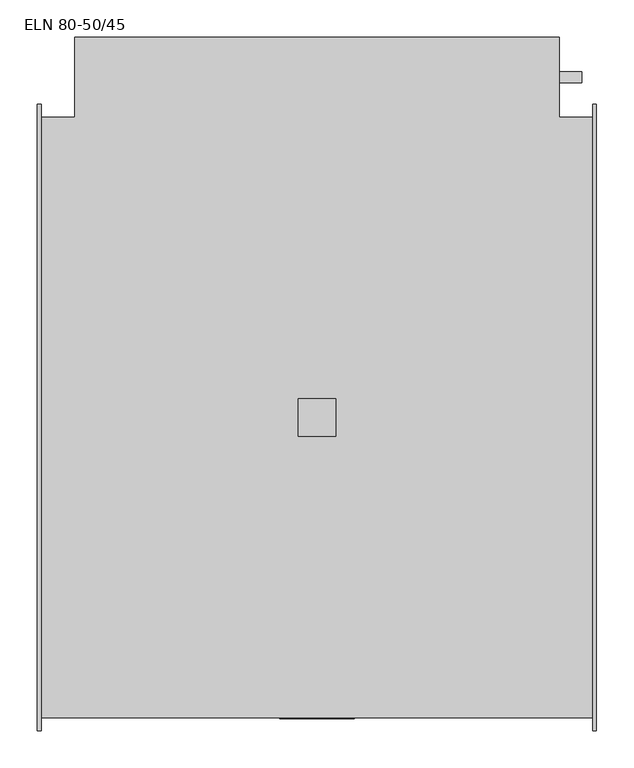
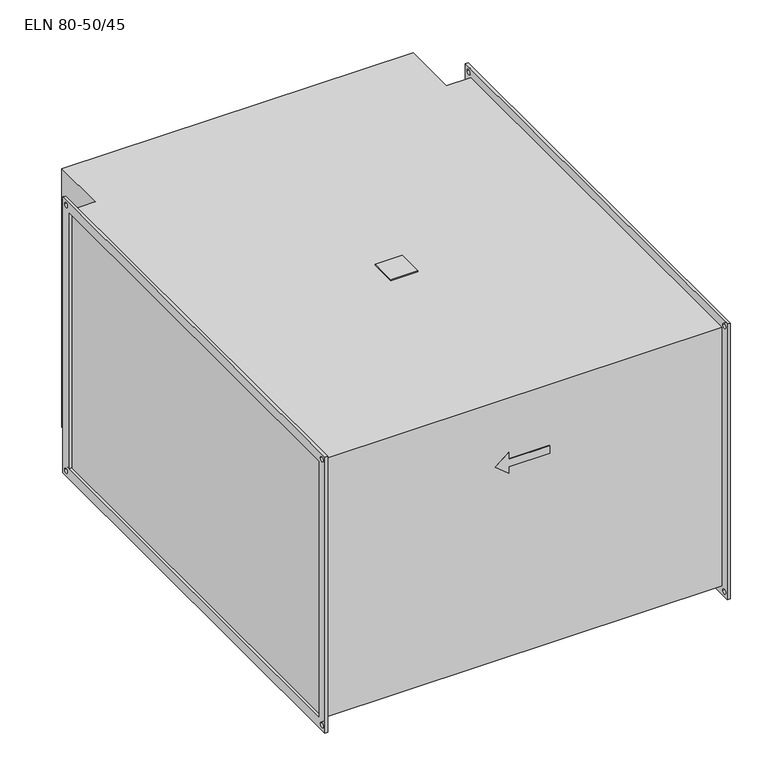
"""IFC4 building model written with IfcOpenShell, lengths in millimetres: proxy geometry, KORF_Нагреватель_Электрический_ELN : ELN 80-50/45."""

from ifc_helpers import new_model, si_unit, point, frame, frame_2d, origin, place, context, project, spatial, polyline, circle_curve, trimmed, segment, composite_curve, outline, extrude, source, transform, mapped, element, save


def eln_80_50_45_32029ed2(model_context):
    return source(origin(), model_context, "Body", "SweptSolid", [
        extrude(outline(polyline([(350.0, -25.0), (350.0, 25.0), (400.0, 25.0), (400.0, -25.0), (350.0, -25.0)])), frame((0.0, 0.0, 253.0), z_axis=(0.0, 0.0, 1.0), x_axis=(1.0, 0.0, 0.0)), (0.0, 0.0, 1.0), 2.0),
        extrude(outline(composite_curve([segment(trimmed(circle_curve(frame_2d((456.5, -126.5)), 7.5), [point((449.0, -126.5))], [point((464.0, -126.5))], False, "CARTESIAN"), True, "CONTINUOUS"), segment(trimmed(circle_curve(frame_2d((456.5, -126.5)), 7.5), [point((464.0, -126.5))], [point((449.0, -126.5))], False, "CARTESIAN"), True, "CONTINUOUS")], self_intersect=False)), frame((700.0, 0.0, 0.0), z_axis=(1.0, 0.0, 0.0), x_axis=(0.0, 1.0, 0.0)), (0.0, 0.0, 1.0), 30.0),
        extrude(outline(composite_curve([segment(trimmed(circle_curve(frame_2d((456.5, -106.5)), 7.5), [point((449.0, -106.5))], [point((464.0, -106.5))], False, "CARTESIAN"), True, "CONTINUOUS"), segment(trimmed(circle_curve(frame_2d((456.5, -106.5)), 7.5), [point((464.0, -106.5))], [point((449.0, -106.5))], False, "CARTESIAN"), True, "CONTINUOUS")], self_intersect=False)), frame((700.0, 0.0, 0.0), z_axis=(1.0, 0.0, 0.0), x_axis=(0.0, 1.0, 0.0)), (0.0, 0.0, 1.0), 30.0),
        extrude(outline(composite_curve([segment(trimmed(circle_curve(frame_2d((456.5, -146.5)), 7.5), [point((449.0, -146.5))], [point((464.0, -146.5))], False, "CARTESIAN"), True, "CONTINUOUS"), segment(trimmed(circle_curve(frame_2d((456.5, -146.5)), 7.5), [point((464.0, -146.5))], [point((449.0, -146.5))], False, "CARTESIAN"), True, "CONTINUOUS")], self_intersect=False)), frame((700.0, 0.0, 0.0), z_axis=(1.0, 0.0, 0.0), x_axis=(0.0, 1.0, 0.0)), (0.0, 0.0, 1.0), 30.0),
        extrude(outline(polyline([(146.5, 350.0), (126.5, 325.0), (106.5, 350.0), (119.0, 350.0), (119.0, 425.0), (134.0, 425.0), (134.0, 350.0), (146.5, 350.0)])), frame((0.0, -404.0, 0.0), z_axis=(0.0, 1.0, 0.0), x_axis=(0.0, 0.0, 1.0)), (0.0, 0.0, 1.0), 1.0),
        extrude(outline(polyline([(745.0, 403.0), (745.0, -403.0), (5.0, -403.0), (5.0, 403.0), (50.0, 403.0), (50.0, 510.0), (700.0, 510.0), (700.0, 403.0), (745.0, 403.0)])), frame((0.0, 0.0, -253.0), z_axis=(0.0, 0.0, 1.0), x_axis=(1.0, 0.0, 0.0)), (0.0, 0.0, 1.0), 506.0),
        extrude(outline(polyline([(-420.0, 270.0), (420.0, 270.0), (420.0, -270.0), (-420.0, -270.0), (-420.0, 270.0)]), holes=[polyline([(-400.0, 250.0), (-400.0, -250.0), (400.0, -250.0), (400.0, 250.0), (-400.0, 250.0)]), composite_curve([segment(trimmed(circle_curve(frame_2d((410.0, 260.0)), 4.5), [point((405.5, 260.0))], [point((414.5, 260.0))], True, "CARTESIAN"), True, "CONTINUOUS"), segment(trimmed(circle_curve(frame_2d((410.0, 260.0)), 4.5), [point((414.5, 260.0))], [point((405.5, 260.0))], True, "CARTESIAN"), True, "CONTINUOUS")], self_intersect=False), composite_curve([segment(trimmed(circle_curve(frame_2d((-410.0, 260.0)), 4.5), [point((-414.5, 260.0))], [point((-405.5, 260.0))], True, "CARTESIAN"), True, "CONTINUOUS"), segment(trimmed(circle_curve(frame_2d((-410.0, 260.0)), 4.5), [point((-405.5, 260.0))], [point((-414.5, 260.0))], True, "CARTESIAN"), True, "CONTINUOUS")], self_intersect=False), composite_curve([segment(trimmed(circle_curve(frame_2d((-410.0, -260.0)), 4.5), [point((-414.5, -260.0))], [point((-405.5, -260.0))], True, "CARTESIAN"), True, "CONTINUOUS"), segment(trimmed(circle_curve(frame_2d((-410.0, -260.0)), 4.5), [point((-405.5, -260.0))], [point((-414.5, -260.0))], True, "CARTESIAN"), True, "CONTINUOUS")], self_intersect=False), composite_curve([segment(trimmed(circle_curve(frame_2d((410.0, -260.0)), 4.5), [point((405.5, -260.0))], [point((414.5, -260.0))], True, "CARTESIAN"), True, "CONTINUOUS"), segment(trimmed(circle_curve(frame_2d((410.0, -260.0)), 4.5), [point((414.5, -260.0))], [point((405.5, -260.0))], True, "CARTESIAN"), True, "CONTINUOUS")], self_intersect=False)]), frame((745.0, 0.0, 0.0), z_axis=(1.0, 0.0, 0.0), x_axis=(0.0, 1.0, 0.0)), (0.0, 0.0, 1.0), 5.0),
        extrude(outline(polyline([(-420.0, 270.0), (420.0, 270.0), (420.0, -270.0), (-420.0, -270.0), (-420.0, 270.0)]), holes=[polyline([(-400.0, 250.0), (-400.0, -250.0), (400.0, -250.0), (400.0, 250.0), (-400.0, 250.0)]), composite_curve([segment(trimmed(circle_curve(frame_2d((410.0, 260.0)), 4.5), [point((405.5, 260.0))], [point((414.5, 260.0))], True, "CARTESIAN"), True, "CONTINUOUS"), segment(trimmed(circle_curve(frame_2d((410.0, 260.0)), 4.5), [point((414.5, 260.0))], [point((405.5, 260.0))], True, "CARTESIAN"), True, "CONTINUOUS")], self_intersect=False), composite_curve([segment(trimmed(circle_curve(frame_2d((-410.0, 260.0)), 4.5), [point((-414.5, 260.0))], [point((-405.5, 260.0))], True, "CARTESIAN"), True, "CONTINUOUS"), segment(trimmed(circle_curve(frame_2d((-410.0, 260.0)), 4.5), [point((-405.5, 260.0))], [point((-414.5, 260.0))], True, "CARTESIAN"), True, "CONTINUOUS")], self_intersect=False), composite_curve([segment(trimmed(circle_curve(frame_2d((-410.0, -260.0)), 4.5), [point((-414.5, -260.0))], [point((-405.5, -260.0))], True, "CARTESIAN"), True, "CONTINUOUS"), segment(trimmed(circle_curve(frame_2d((-410.0, -260.0)), 4.5), [point((-405.5, -260.0))], [point((-414.5, -260.0))], True, "CARTESIAN"), True, "CONTINUOUS")], self_intersect=False), composite_curve([segment(trimmed(circle_curve(frame_2d((410.0, -260.0)), 4.5), [point((405.5, -260.0))], [point((414.5, -260.0))], True, "CARTESIAN"), True, "CONTINUOUS"), segment(trimmed(circle_curve(frame_2d((410.0, -260.0)), 4.5), [point((414.5, -260.0))], [point((405.5, -260.0))], True, "CARTESIAN"), True, "CONTINUOUS")], self_intersect=False)]), frame((0.0, 0.0, 0.0), z_axis=(1.0, 0.0, 0.0), x_axis=(0.0, 1.0, 0.0)), (0.0, 0.0, 1.0), 5.0),
    ])


if __name__ == "__main__":
    model = new_model("IFC4")
    model_context = context("Model", 3, world=origin())
    ifc_project = project(units=[si_unit("LENGTHUNIT", "METRE", prefix="MILLI")], contexts=[model_context])
    site = spatial("IfcSite", under=ifc_project)
    building = spatial("IfcBuilding", under=site)
    placement = place(None, origin())
    eln_80_50_45_shape = eln_80_50_45_32029ed2(model_context)
    element("IfcBuildingElementProxy", 1, Name="KORF_Нагреватель_Электрический_ELN : ELN 80-50/45", ObjectType="KORF_Нагреватель_Электрический_ELN : ELN 80-50/45", at=placement, inside=building, context=model_context, shape_type="MappedRepresentation", body=[
        mapped(eln_80_50_45_shape, transform((0.0, 0.0, 0.0), x_axis=(1.0, 0.0, 0.0), y_axis=(0.0, 1.0, 0.0), z_axis=(0.0, 0.0, 1.0))),
    ])
    save(model, "model.ifc")
